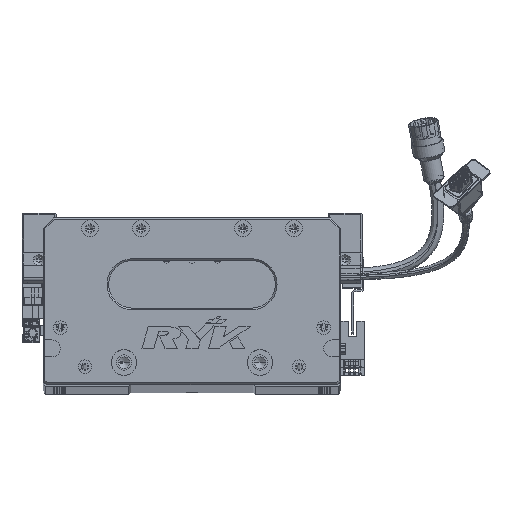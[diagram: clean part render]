
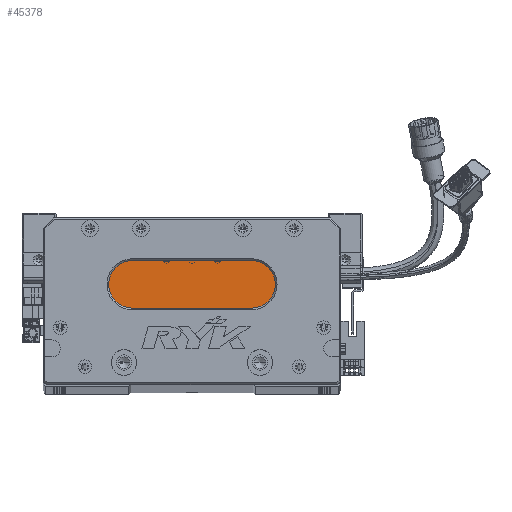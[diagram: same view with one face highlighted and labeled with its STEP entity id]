
A CAD part, top view. The second image highlights one B-rep face of the part: STEP entity #45378.
In plain terms, the highlighted planar face has unit normal (0, 0, 1) as drawn and (0, 0, -1) by its records, which use the part's own axes.
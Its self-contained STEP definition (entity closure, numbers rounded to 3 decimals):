
#1917 = VECTOR ( 'NONE', #9611, 1000. ) ;
#2533 = FACE_OUTER_BOUND ( 'NONE', #51557, .T. ) ;
#7614 = CIRCLE ( 'NONE', #101463, 14. ) ;
#9611 = DIRECTION ( 'NONE',  ( 1., 0., 0. ) ) ;
#14065 = CARTESIAN_POINT ( 'NONE',  ( 122.5, 45., 18. ) ) ;
#22141 = ORIENTED_EDGE ( 'NONE', *, *, #50126, .T. ) ;
#25996 = CARTESIAN_POINT ( 'NONE',  ( 52.5, 45., 18. ) ) ;
#30257 = AXIS2_PLACEMENT_3D ( 'NONE', #123262, #52517, #123696 ) ;
#45378 = ADVANCED_FACE ( 'NONE', ( #2533 ), #115500, .T. ) ;
#46503 = EDGE_CURVE ( 'NONE', #67185, #70525, #115113, .T. ) ;
#46955 = CARTESIAN_POINT ( 'NONE',  ( 122.5, 59., 18. ) ) ;
#49116 = ORIENTED_EDGE ( 'NONE', *, *, #60280, .T. ) ;
#50126 = EDGE_CURVE ( 'NONE', #70525, #54457, #70086, .T. ) ;
#50714 = DIRECTION ( 'NONE',  ( 0., 0., -1. ) ) ;
#51557 = EDGE_LOOP ( 'NONE', ( #71815, #49116, #64184, #117608, #22141 ) ) ;
#51613 = DIRECTION ( 'NONE',  ( -1., 0., 0. ) ) ;
#51840 = LINE ( 'NONE', #104127, #72332 ) ;
#52517 = DIRECTION ( 'NONE',  ( 0., 0., -1. ) ) ;
#54457 = VERTEX_POINT ( 'NONE', #72722 ) ;
#58796 = CARTESIAN_POINT ( 'NONE',  ( 52.5, 59., 18. ) ) ;
#60280 = EDGE_CURVE ( 'NONE', #91417, #98589, #51840, .T. ) ;
#64184 = ORIENTED_EDGE ( 'NONE', *, *, #131182, .T. ) ;
#66490 = DIRECTION ( 'NONE',  ( 0., 0., -1. ) ) ;
#67185 = VERTEX_POINT ( 'NONE', #127323 ) ;
#70086 = LINE ( 'NONE', #102432, #1917 ) ;
#70525 = VERTEX_POINT ( 'NONE', #85603 ) ;
#71815 = ORIENTED_EDGE ( 'NONE', *, *, #105783, .T. ) ;
#72332 = VECTOR ( 'NONE', #113534, 1000. ) ;
#72722 = CARTESIAN_POINT ( 'NONE',  ( 122.5, 73., 18. ) ) ;
#76415 = AXIS2_PLACEMENT_3D ( 'NONE', #46955, #50714, #51613 ) ;
#76746 = DIRECTION ( 'NONE',  ( -1., 0., 0. ) ) ;
#80110 = DIRECTION ( 'NONE',  ( -1., 0., 0. ) ) ;
#85603 = CARTESIAN_POINT ( 'NONE',  ( 52.5, 73., 18. ) ) ;
#91417 = VERTEX_POINT ( 'NONE', #14065 ) ;
#98589 = VERTEX_POINT ( 'NONE', #25996 ) ;
#101463 = AXIS2_PLACEMENT_3D ( 'NONE', #118114, #66490, #76746 ) ;
#102432 = CARTESIAN_POINT ( 'NONE',  ( 122.5, 73., 18. ) ) ;
#104127 = CARTESIAN_POINT ( 'NONE',  ( 122.5, 45., 18. ) ) ;
#104260 = CIRCLE ( 'NONE', #30257, 14. ) ;
#105783 = EDGE_CURVE ( 'NONE', #54457, #91417, #7614, .T. ) ;
#107171 = AXIS2_PLACEMENT_3D ( 'NONE', #58796, #131290, #80110 ) ;
#113534 = DIRECTION ( 'NONE',  ( -1., 0., 0. ) ) ;
#115113 = CIRCLE ( 'NONE', #107171, 14. ) ;
#115500 = PLANE ( 'NONE',  #76415 ) ;
#117608 = ORIENTED_EDGE ( 'NONE', *, *, #46503, .T. ) ;
#118114 = CARTESIAN_POINT ( 'NONE',  ( 122.5, 59., 18. ) ) ;
#123262 = CARTESIAN_POINT ( 'NONE',  ( 52.5, 59., 18. ) ) ;
#123696 = DIRECTION ( 'NONE',  ( -1., 0., 0. ) ) ;
#127323 = CARTESIAN_POINT ( 'NONE',  ( 38.5, 59., 18. ) ) ;
#131182 = EDGE_CURVE ( 'NONE', #98589, #67185, #104260, .T. ) ;
#131290 = DIRECTION ( 'NONE',  ( 0., 0., -1. ) ) ;
